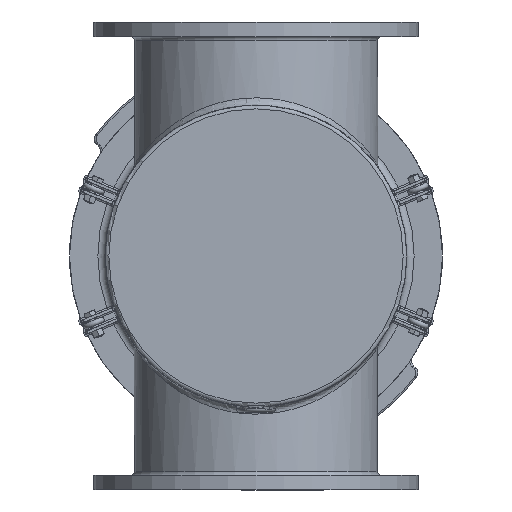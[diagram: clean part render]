
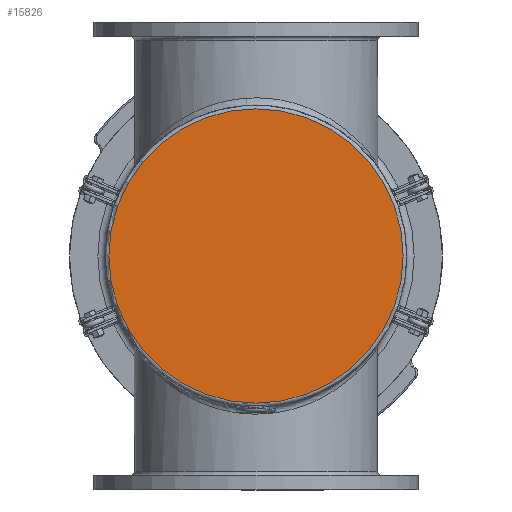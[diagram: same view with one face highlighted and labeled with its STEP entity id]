
A CAD part, front view. The second image highlights one B-rep face of the part: STEP entity #15826.
In plain terms, the highlighted planar face has unit normal (0, -1, 0).
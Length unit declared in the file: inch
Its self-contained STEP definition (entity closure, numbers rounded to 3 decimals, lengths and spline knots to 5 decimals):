
#2259=PLANE('',#16865);
#3366=FACE_OUTER_BOUND('',#4373,.T.);
#4373=EDGE_LOOP('',(#10636));
#5946=CIRCLE('',#16861,10.0625);
#6900=VERTEX_POINT('',#24079);
#8343=EDGE_CURVE('',#6900,#6900,#5946,.T.);
#10636=ORIENTED_EDGE('',*,*,#8343,.F.);
#15826=ADVANCED_FACE('',(#3366),#2259,.F.);
#16861=AXIS2_PLACEMENT_3D('',#24080,#18885,#18886);
#16865=AXIS2_PLACEMENT_3D('',#24085,#18893,#18894);
#18885=DIRECTION('center_axis',(0.,1.,0.));
#18886=DIRECTION('ref_axis',(1.,0.,0.));
#18893=DIRECTION('center_axis',(0.,1.,0.));
#18894=DIRECTION('ref_axis',(0.,0.,1.));
#24079=CARTESIAN_POINT('',(-10.0625,0.,0.));
#24080=CARTESIAN_POINT('Origin',(0.,0.,0.));
#24085=CARTESIAN_POINT('Origin',(0.,0.,0.));
